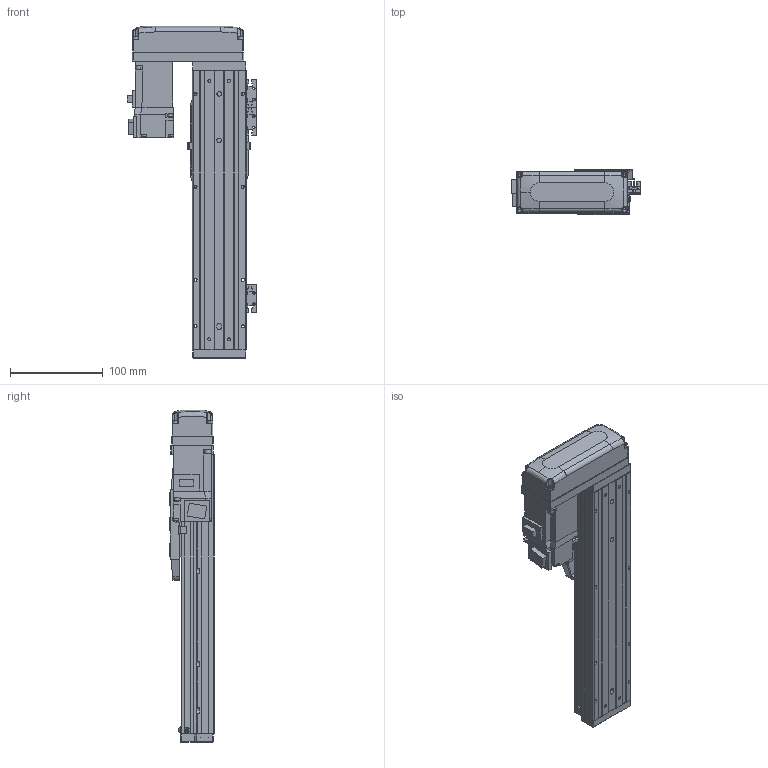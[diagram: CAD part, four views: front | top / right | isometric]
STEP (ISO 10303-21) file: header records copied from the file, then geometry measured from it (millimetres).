
FILE_DESCRIPTION (( 'STEP AP203' ), '1' );
FILE_NAME ('CTHA50-150-BR-M10-C4L.step', '2022-03-19T06:06:12', ( '微软用户' ), ( '微软中国' ), 'SwSTEP 2.0', 'SolidWorks 2020', '' );
FILE_SCHEMA (( 'CONFIG_CONTROL_DESIGN' ));
Length unit declared in the file: millimetre
Products named in the file (20): KTHA50-001_300; CTHA60-017; CTHA60-033; KTHA50-004; HG-KR13（三菱）; GBT 70.1-M4×12; GBT 70.1-M3×15; KTHA50-005; CTHA50-002; CTHA60-016; CTHA50-150-BR-M10-C4L; GB¨uT 70.2-M3¡Á6_M3¡Á6; CTHA50-030; CTHA60-021; EE_SX911P_R; CTHA50-031; GBT77-2000 M3×3; GBT 70.3-M3℅6; GBT 70.1-M3℅6; CTHA50-015-2_CTHA60-015-2
Assembly tree (60 placements, depth 2):
  CTHA50-150-BR-M10-C4L
    KTHA50-001_300
    KTHA50-004
    KTHA50-005
    GB¨uT 70.2-M3¡Á6_M3¡Á6  x10
    EE_SX911P_R  x3
    GBT77-2000 M3×3  x6
    GBT 70.1-M3℅6  x6
    CTHA60-017  x3
    GBT 70.1-M4×12  x10
    CTHA60-016  x2
    CTHA60-021  x2
    HG-KR13（三菱）
    CTHA50-002
    CTHA50-030  x2
    CTHA50-031
    GBT 70.3-M3℅6  x4
    CTHA50-015-2_CTHA60-015-2
    CTHA60-033
    GBT 70.1-M3×15  x4
Bounding box: 139.12 x 48 x 357 mm (x, y, z)
Volume: 872802.2 mm3; surface area: 229810.8 mm2
Topology: 62 solids, 62 shells, 2473 faces, 5855 edges, 3582 vertices
Faces by surface type: plane 1398, cylinder 570, cone 347, torus 108, bspline 26, sphere 24
Entity records: 41393 total; most frequent: CARTESIAN_POINT 7659, DIRECTION 6425, ORIENTED_EDGE 6218, EDGE_CURVE 3109, VECTOR 2169, LINE 2169, AXIS2_PLACEMENT_3D 2128, VERTEX_POINT 1956
